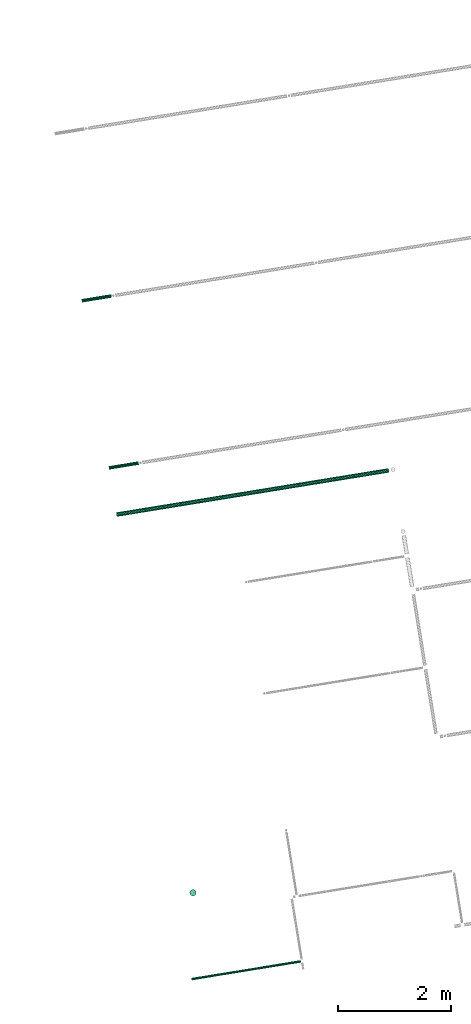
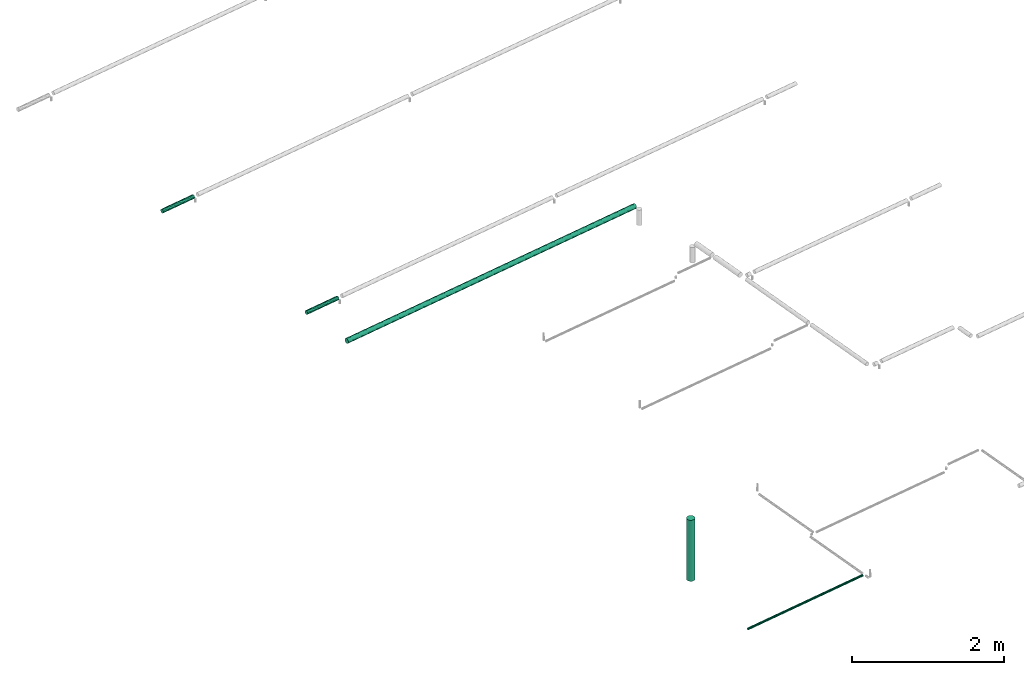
# One storey, part 9 of 10: 5 flow segments.
"""IFC2X3 building model written with IfcOpenShell, lengths in millimetres."""

from ifc_helpers import new_model, entity, si_unit, converted_unit, derived_unit, direction, frame, origin, origin_with_axes, place, context, subcontext, project, spatial, faceted_brep, type_object, element, save


model = new_model("IFC2X3")

# Units and contexts
plan_context = context("Plan", 3, precision=1e-05, world=origin_with_axes())
model_context = context("Model", 3, precision=0.01, world=origin(), true_north=direction((6.12323399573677e-17, 1.0)))
body_context = subcontext(model_context, "Body", "Model", "MODEL_VIEW")
ifc_project = project(units=[converted_unit("PLANEANGLEUNIT", "DEGREE", entity("IfcPositiveLengthMeasure", 0.0174532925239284), si_unit("PLANEANGLEUNIT", "RADIAN"), dimensions=[0, 0, 0, 0, 0, 0, 0]), si_unit("AREAUNIT", "SQUARE_METRE"), si_unit("LENGTHUNIT", "METRE", prefix="MILLI"), si_unit("MASSUNIT", "GRAM", prefix="KILO"), si_unit("POWERUNIT", "WATT"), si_unit("PRESSUREUNIT", "PASCAL", prefix="KILO"), si_unit("FORCEUNIT", "NEWTON", prefix="KILO"), si_unit("ELECTRICVOLTAGEUNIT", "VOLT"), si_unit("ELECTRICCURRENTUNIT", "AMPERE"), si_unit("THERMODYNAMICTEMPERATUREUNIT", "DEGREE_CELSIUS"), si_unit("TIMEUNIT", "SECOND"), si_unit("VOLUMEUNIT", "CUBIC_METRE"), derived_unit("LINEARVELOCITYUNIT", [(si_unit("LENGTHUNIT", "METRE"), 1), (si_unit("TIMEUNIT", "SECOND"), -1)]), derived_unit("VOLUMETRICFLOWRATEUNIT", [(si_unit("VOLUMEUNIT", "CUBIC_METRE"), 1), (si_unit("TIMEUNIT", "SECOND"), -1)]), derived_unit("THERMALTRANSMITTANCEUNIT", [(si_unit("POWERUNIT", "WATT"), 1), (si_unit("THERMODYNAMICTEMPERATUREUNIT", "KELVIN"), -1), (si_unit("AREAUNIT", "SQUARE_METRE"), -1)]), derived_unit("SOUNDPRESSUREUNIT", [(si_unit("PRESSUREUNIT", "PASCAL"), 1)])], contexts=[model_context, plan_context])

# Site, building, storey
site_placement = place(None, frame((-0.00071070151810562, 0.00438415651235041, 0.0), z_axis=(0.0, 0.0, 1.0), x_axis=(-0.160236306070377, 0.987078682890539, 0.0)))
site = spatial("IfcSite", under=ifc_project, at=site_placement, Name="Default", CompositionType="ELEMENT")
building_placement = place(site_placement, origin_with_axes())
building = spatial("IfcBuilding", under=site, at=building_placement, CompositionType="ELEMENT")
storey_placement = place(building_placement, frame((0.0, 0.0, 55630.0), z_axis=(0.0, 0.0, 1.0), x_axis=(1.0, 0.0, 0.0)))
storey = spatial("IfcBuildingStorey", under=building, at=storey_placement, Name="Nivå E", CompositionType="ELEMENT", Elevation=55630.0)

# Flow segments
pipe_segment_type = type_object("IfcPipeSegmentType", Name="Pipe Types:Stålrør normaltykke", PredefinedType="NOTDEFINED")
flow_segment_1_placement = place(storey_placement, origin_with_axes())
element("IfcFlowSegment", 1, at=flow_segment_1_placement, inside=storey, type_object=pipe_segment_type, Name="Pipe Types:Stålrør normaltykke", ObjectType="Pipe Types:Stålrør normaltykke", context=body_context, shape_type="Brep", body=[
    faceted_brep([(772407.31159749, -500902.480498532, 2605.23549249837), (772407.769643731, -500902.480498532, 2600.0), (772407.769643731, -501434.677242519, 2600.0), (772407.31159749, -501434.677242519, 2605.23549249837), (772407.31159749, -500902.480498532, 2594.76450750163), (772407.31159749, -501434.677242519, 2594.76450750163), (772405.951376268, -500902.480498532, 2589.68809279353), (772405.951376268, -501434.677242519, 2589.68809279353), (772403.7303097, -500902.480498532, 2584.92500016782), (772403.7303097, -501434.677242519, 2584.92500016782), (772400.71588377, -500902.480498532, 2580.6199537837), (772400.71588377, -501434.677242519, 2580.6199537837), (772396.999690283, -500902.480498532, 2576.90376029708), (772396.999690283, -501434.677242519, 2576.90376029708), (772392.694643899, -500902.480498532, 2573.88933436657), (772392.694643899, -501434.677242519, 2573.88933436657), (772387.931551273, -500902.480498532, 2571.66826779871), (772387.931551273, -501434.677242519, 2571.66826779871), (772382.855136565, -500902.480498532, 2570.30804657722), (772382.855136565, -501434.677242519, 2570.30804657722), (772377.619644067, -500902.480498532, 2569.85000033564), (772377.619644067, -501434.677242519, 2569.85000033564), (772372.384151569, -500902.480498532, 2570.30804657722), (772372.384151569, -501434.677242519, 2570.30804657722), (772367.30773686, -500902.480498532, 2571.66826779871), (772367.30773686, -501434.677242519, 2571.66826779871), (772362.544644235, -500902.480498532, 2573.88933436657), (772362.544644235, -501434.677242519, 2573.88933436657), (772358.239597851, -500902.480498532, 2576.90376029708), (772358.239597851, -501434.677242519, 2576.90376029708), (772354.523404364, -500902.480498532, 2580.6199537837), (772354.523404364, -501434.677242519, 2580.6199537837), (772351.508978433, -500902.480498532, 2584.92500016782), (772351.508978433, -501434.677242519, 2584.92500016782), (772349.287911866, -500902.480498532, 2589.68809279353), (772349.287911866, -501434.677242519, 2589.68809279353), (772347.927690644, -500902.480498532, 2594.76450750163), (772347.927690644, -501434.677242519, 2594.76450750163), (772347.469644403, -500902.480498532, 2600.0), (772347.469644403, -501434.677242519, 2600.0), (772347.927690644, -500902.480498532, 2605.23549249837), (772347.927690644, -501434.677242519, 2605.23549249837), (772349.287911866, -500902.480498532, 2610.31190720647), (772349.287911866, -501434.677242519, 2610.31190720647), (772351.508978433, -500902.480498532, 2615.07499983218), (772351.508978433, -501434.677242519, 2615.07499983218), (772354.523404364, -500902.480498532, 2619.3800462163), (772354.523404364, -501434.677242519, 2619.3800462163), (772358.239597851, -500902.480498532, 2623.09623970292), (772358.239597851, -501434.677242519, 2623.09623970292), (772362.544644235, -500902.480498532, 2626.11066563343), (772362.544644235, -501434.677242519, 2626.11066563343), (772367.30773686, -500902.480498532, 2628.33173220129), (772367.30773686, -501434.677242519, 2628.33173220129), (772372.384151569, -500902.480498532, 2629.69195342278), (772372.384151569, -501434.677242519, 2629.69195342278), (772377.619644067, -500902.480498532, 2630.14999966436), (772377.619644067, -501434.677242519, 2630.14999966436), (772382.855136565, -500902.480498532, 2629.69195342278), (772382.855136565, -501434.677242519, 2629.69195342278), (772387.931551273, -500902.480498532, 2628.33173220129), (772387.931551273, -501434.677242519, 2628.33173220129), (772392.694643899, -500902.480498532, 2626.11066563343), (772392.694643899, -501434.677242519, 2626.11066563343), (772396.999690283, -500902.480498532, 2623.09623970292), (772396.999690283, -501434.677242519, 2623.09623970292), (772400.71588377, -500902.480498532, 2619.3800462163), (772400.71588377, -501434.677242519, 2619.3800462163), (772403.7303097, -500902.480498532, 2615.07499983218), (772403.7303097, -501434.677242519, 2615.07499983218), (772405.951376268, -500902.480498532, 2610.31190720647), (772405.951376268, -501434.677242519, 2610.31190720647)], [[[0, 1, 2, 3]], [[1, 4, 5, 2]], [[4, 6, 7, 5]], [[6, 8, 9, 7]], [[8, 10, 11, 9]], [[10, 12, 13, 11]], [[12, 14, 15, 13]], [[14, 16, 17, 15]], [[16, 18, 19, 17]], [[18, 20, 21, 19]], [[20, 22, 23, 21]], [[22, 24, 25, 23]], [[24, 26, 27, 25]], [[26, 28, 29, 27]], [[28, 30, 31, 29]], [[30, 32, 33, 31]], [[32, 34, 35, 33]], [[34, 36, 37, 35]], [[36, 38, 39, 37]], [[38, 40, 41, 39]], [[40, 42, 43, 41]], [[42, 44, 45, 43]], [[44, 46, 47, 45]], [[46, 48, 49, 47]], [[48, 50, 51, 49]], [[50, 52, 53, 51]], [[52, 54, 55, 53]], [[54, 56, 57, 55]], [[56, 58, 59, 57]], [[58, 60, 61, 59]], [[60, 62, 63, 61]], [[62, 64, 65, 63]], [[64, 66, 67, 65]], [[66, 68, 69, 67]], [[68, 70, 71, 69]], [[70, 0, 3, 71]], [[3, 2, 5, 7, 9, 11, 13, 15, 17, 19, 21, 23, 25, 27, 29, 31, 33, 35, 37, 39, 41, 43, 45, 47, 49, 51, 53, 55, 57, 59, 61, 63, 65, 67, 69, 71]], [[70, 68, 66, 64, 62, 60, 58, 56, 54, 52, 50, 48, 46, 44, 42, 40, 38, 36, 34, 32, 30, 28, 26, 24, 22, 20, 18, 16, 14, 12, 10, 8, 6, 4, 1, 0]]], orient=[[False], [False], [False], [False], [False], [False], [False], [False], [False], [False], [False], [False], [False], [False], [False], [False], [False], [False], [False], [False], [False], [False], [False], [False], [False], [False], [False], [False], [False], [False], [False], [False], [False], [False], [False], [False], [False], [False]]),
])
flow_segment_2_placement = place(storey_placement, origin_with_axes())
element("IfcFlowSegment", 2, at=flow_segment_2_placement, inside=storey, type_object=pipe_segment_type, Name="Pipe Types:Stålrør normaltykke", ObjectType="Pipe Types:Stålrør normaltykke", context=body_context, shape_type="Brep", body=[
    faceted_brep([(775407.31159749, -500902.480498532, 2605.23549249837), (775407.769643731, -500902.480498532, 2600.0), (775407.769643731, -501434.677242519, 2600.0), (775407.31159749, -501434.677242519, 2605.23549249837), (775407.31159749, -500902.480498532, 2594.76450750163), (775407.31159749, -501434.677242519, 2594.76450750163), (775405.951376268, -500902.480498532, 2589.68809279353), (775405.951376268, -501434.677242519, 2589.68809279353), (775403.7303097, -500902.480498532, 2584.92500016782), (775403.7303097, -501434.677242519, 2584.92500016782), (775400.71588377, -500902.480498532, 2580.6199537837), (775400.71588377, -501434.677242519, 2580.6199537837), (775396.999690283, -500902.480498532, 2576.90376029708), (775396.999690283, -501434.677242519, 2576.90376029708), (775392.694643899, -500902.480498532, 2573.88933436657), (775392.694643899, -501434.677242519, 2573.88933436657), (775387.931551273, -500902.480498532, 2571.66826779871), (775387.931551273, -501434.677242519, 2571.66826779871), (775382.855136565, -500902.480498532, 2570.30804657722), (775382.855136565, -501434.677242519, 2570.30804657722), (775377.619644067, -500902.480498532, 2569.85000033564), (775377.619644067, -501434.677242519, 2569.85000033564), (775372.384151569, -500902.480498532, 2570.30804657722), (775372.384151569, -501434.677242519, 2570.30804657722), (775367.30773686, -500902.480498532, 2571.66826779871), (775367.30773686, -501434.677242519, 2571.66826779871), (775362.544644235, -500902.480498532, 2573.88933436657), (775362.544644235, -501434.677242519, 2573.88933436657), (775358.239597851, -500902.480498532, 2576.90376029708), (775358.239597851, -501434.677242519, 2576.90376029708), (775354.523404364, -500902.480498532, 2580.6199537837), (775354.523404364, -501434.677242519, 2580.6199537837), (775351.508978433, -500902.480498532, 2584.92500016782), (775351.508978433, -501434.677242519, 2584.92500016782), (775349.287911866, -500902.480498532, 2589.68809279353), (775349.287911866, -501434.677242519, 2589.68809279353), (775347.927690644, -500902.480498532, 2594.76450750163), (775347.927690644, -501434.677242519, 2594.76450750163), (775347.469644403, -500902.480498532, 2600.0), (775347.469644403, -501434.677242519, 2600.0), (775347.927690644, -500902.480498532, 2605.23549249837), (775347.927690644, -501434.677242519, 2605.23549249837), (775349.287911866, -500902.480498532, 2610.31190720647), (775349.287911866, -501434.677242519, 2610.31190720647), (775351.508978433, -500902.480498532, 2615.07499983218), (775351.508978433, -501434.677242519, 2615.07499983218), (775354.523404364, -500902.480498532, 2619.3800462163), (775354.523404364, -501434.677242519, 2619.3800462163), (775358.239597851, -500902.480498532, 2623.09623970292), (775358.239597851, -501434.677242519, 2623.09623970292), (775362.544644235, -500902.480498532, 2626.11066563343), (775362.544644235, -501434.677242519, 2626.11066563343), (775367.30773686, -500902.480498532, 2628.33173220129), (775367.30773686, -501434.677242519, 2628.33173220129), (775372.384151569, -500902.480498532, 2629.69195342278), (775372.384151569, -501434.677242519, 2629.69195342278), (775377.619644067, -500902.480498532, 2630.14999966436), (775377.619644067, -501434.677242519, 2630.14999966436), (775382.855136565, -500902.480498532, 2629.69195342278), (775382.855136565, -501434.677242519, 2629.69195342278), (775387.931551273, -500902.480498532, 2628.33173220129), (775387.931551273, -501434.677242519, 2628.33173220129), (775392.694643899, -500902.480498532, 2626.11066563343), (775392.694643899, -501434.677242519, 2626.11066563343), (775396.999690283, -500902.480498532, 2623.09623970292), (775396.999690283, -501434.677242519, 2623.09623970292), (775400.71588377, -500902.480498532, 2619.3800462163), (775400.71588377, -501434.677242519, 2619.3800462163), (775403.7303097, -500902.480498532, 2615.07499983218), (775403.7303097, -501434.677242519, 2615.07499983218), (775405.951376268, -500902.480498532, 2610.31190720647), (775405.951376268, -501434.677242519, 2610.31190720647)], [[[0, 1, 2, 3]], [[1, 4, 5, 2]], [[4, 6, 7, 5]], [[6, 8, 9, 7]], [[8, 10, 11, 9]], [[10, 12, 13, 11]], [[12, 14, 15, 13]], [[14, 16, 17, 15]], [[16, 18, 19, 17]], [[18, 20, 21, 19]], [[20, 22, 23, 21]], [[22, 24, 25, 23]], [[24, 26, 27, 25]], [[26, 28, 29, 27]], [[28, 30, 31, 29]], [[30, 32, 33, 31]], [[32, 34, 35, 33]], [[34, 36, 37, 35]], [[36, 38, 39, 37]], [[38, 40, 41, 39]], [[40, 42, 43, 41]], [[42, 44, 45, 43]], [[44, 46, 47, 45]], [[46, 48, 49, 47]], [[48, 50, 51, 49]], [[50, 52, 53, 51]], [[52, 54, 55, 53]], [[54, 56, 57, 55]], [[56, 58, 59, 57]], [[58, 60, 61, 59]], [[60, 62, 63, 61]], [[62, 64, 65, 63]], [[64, 66, 67, 65]], [[66, 68, 69, 67]], [[68, 70, 71, 69]], [[70, 0, 3, 71]], [[3, 2, 5, 7, 9, 11, 13, 15, 17, 19, 21, 23, 25, 27, 29, 31, 33, 35, 37, 39, 41, 43, 45, 47, 49, 51, 53, 55, 57, 59, 61, 63, 65, 67, 69, 71]], [[70, 68, 66, 64, 62, 60, 58, 56, 54, 52, 50, 48, 46, 44, 42, 40, 38, 36, 34, 32, 30, 28, 26, 24, 22, 20, 18, 16, 14, 12, 10, 8, 6, 4, 1, 0]]], orient=[[False], [False], [False], [False], [False], [False], [False], [False], [False], [False], [False], [False], [False], [False], [False], [False], [False], [False], [False], [False], [False], [False], [False], [False], [False], [False], [False], [False], [False], [False], [False], [False], [False], [False], [False], [False], [False], [False]]),
])
flow_segment_3_placement = place(storey_placement, origin_with_axes())
element("IfcFlowSegment", 3, at=flow_segment_3_placement, inside=storey, type_object=pipe_segment_type, Name="Pipe Types:Stålrør normaltykke", ObjectType="Pipe Types:Stålrør normaltykke", context=body_context, shape_type="Brep", body=[
    faceted_brep([(771576.670153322, -500902.480498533, 2606.60731303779), (771577.248218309, -500902.480498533, 2600.0), (771577.248218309, -505792.171366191, 2600.0), (771576.670153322, -505792.171366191, 2606.60731303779), (771576.670153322, -500902.480498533, 2593.39268696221), (771576.670153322, -505792.171366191, 2593.39268696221), (771574.953522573, -500902.480498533, 2586.98613378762), (771574.953522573, -505792.171366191, 2586.98613378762), (771572.150485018, -500902.480498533, 2580.97500035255), (771572.150485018, -505792.171366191, 2580.97500035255), (771568.346209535, -500902.480498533, 2575.54193190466), (771568.346209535, -505792.171366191, 2575.54193190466), (771563.65628711, -500902.480498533, 2570.85200947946), (771563.65628711, -505792.171366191, 2570.85200947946), (771558.223218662, -500902.480498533, 2567.04773399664), (771558.223218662, -505792.171366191, 2567.04773399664), (771552.212085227, -500902.480498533, 2564.24469644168), (771552.212085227, -505792.171366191, 2564.24469644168), (771545.805532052, -500902.480498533, 2562.52806569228), (771545.805532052, -505792.171366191, 2562.52806569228), (771539.198219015, -500902.480498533, 2561.9500007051), (771539.198219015, -505792.171366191, 2561.9500007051), (771532.590905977, -500902.480498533, 2562.52806569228), (771532.590905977, -505792.171366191, 2562.52806569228), (771526.184352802, -500902.480498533, 2564.24469644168), (771526.184352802, -505792.171366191, 2564.24469644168), (771520.173219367, -500902.480498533, 2567.04773399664), (771520.173219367, -505792.171366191, 2567.04773399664), (771514.740150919, -500902.480498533, 2570.85200947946), (771514.740150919, -505792.171366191, 2570.85200947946), (771510.050228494, -500902.480498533, 2575.54193190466), (771510.050228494, -505792.171366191, 2575.54193190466), (771506.245953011, -500902.480498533, 2580.97500035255), (771506.245953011, -505792.171366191, 2580.97500035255), (771503.442915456, -500902.480498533, 2586.98613378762), (771503.442915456, -505792.171366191, 2586.98613378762), (771501.726284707, -500902.480498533, 2593.39268696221), (771501.726284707, -505792.171366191, 2593.39268696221), (771501.14821972, -500902.480498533, 2600.0), (771501.14821972, -505792.171366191, 2600.0), (771501.726284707, -500902.480498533, 2606.60731303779), (771501.726284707, -505792.171366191, 2606.60731303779), (771503.442915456, -500902.480498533, 2613.01386621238), (771503.442915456, -505792.171366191, 2613.01386621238), (771506.245953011, -500902.480498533, 2619.02499964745), (771506.245953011, -505792.171366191, 2619.02499964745), (771510.050228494, -500902.480498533, 2624.45806809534), (771510.050228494, -505792.171366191, 2624.45806809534), (771514.740150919, -500902.480498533, 2629.14799052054), (771514.740150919, -505792.171366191, 2629.14799052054), (771520.173219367, -500902.480498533, 2632.95226600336), (771520.173219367, -505792.171366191, 2632.95226600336), (771526.184352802, -500902.480498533, 2635.75530355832), (771526.184352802, -505792.171366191, 2635.75530355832), (771532.590905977, -500902.480498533, 2637.47193430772), (771532.590905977, -505792.171366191, 2637.47193430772), (771539.198219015, -500902.480498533, 2638.0499992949), (771539.198219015, -505792.171366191, 2638.0499992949), (771545.805532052, -500902.480498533, 2637.47193430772), (771545.805532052, -505792.171366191, 2637.47193430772), (771552.212085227, -500902.480498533, 2635.75530355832), (771552.212085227, -505792.171366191, 2635.75530355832), (771558.223218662, -500902.480498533, 2632.95226600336), (771558.223218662, -505792.171366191, 2632.95226600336), (771563.65628711, -500902.480498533, 2629.14799052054), (771563.65628711, -505792.171366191, 2629.14799052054), (771568.346209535, -500902.480498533, 2624.45806809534), (771568.346209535, -505792.171366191, 2624.45806809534), (771572.150485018, -500902.480498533, 2619.02499964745), (771572.150485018, -505792.171366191, 2619.02499964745), (771574.953522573, -500902.480498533, 2613.01386621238), (771574.953522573, -505792.171366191, 2613.01386621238)], [[[0, 1, 2, 3]], [[1, 4, 5, 2]], [[4, 6, 7, 5]], [[6, 8, 9, 7]], [[8, 10, 11, 9]], [[10, 12, 13, 11]], [[12, 14, 15, 13]], [[14, 16, 17, 15]], [[16, 18, 19, 17]], [[18, 20, 21, 19]], [[20, 22, 23, 21]], [[22, 24, 25, 23]], [[24, 26, 27, 25]], [[26, 28, 29, 27]], [[28, 30, 31, 29]], [[30, 32, 33, 31]], [[32, 34, 35, 33]], [[34, 36, 37, 35]], [[36, 38, 39, 37]], [[38, 40, 41, 39]], [[40, 42, 43, 41]], [[42, 44, 45, 43]], [[44, 46, 47, 45]], [[46, 48, 49, 47]], [[48, 50, 51, 49]], [[50, 52, 53, 51]], [[52, 54, 55, 53]], [[54, 56, 57, 55]], [[56, 58, 59, 57]], [[58, 60, 61, 59]], [[60, 62, 63, 61]], [[62, 64, 65, 63]], [[64, 66, 67, 65]], [[66, 68, 69, 67]], [[68, 70, 71, 69]], [[70, 0, 3, 71]], [[3, 2, 5, 7, 9, 11, 13, 15, 17, 19, 21, 23, 25, 27, 29, 31, 33, 35, 37, 39, 41, 43, 45, 47, 49, 51, 53, 55, 57, 59, 61, 63, 65, 67, 69, 71]], [[70, 68, 66, 64, 62, 60, 58, 56, 54, 52, 50, 48, 46, 44, 42, 40, 38, 36, 34, 32, 30, 28, 26, 24, 22, 20, 18, 16, 14, 12, 10, 8, 6, 4, 1, 0]]], orient=[[False], [False], [False], [False], [False], [False], [False], [False], [False], [False], [False], [False], [False], [False], [False], [False], [False], [False], [False], [False], [False], [False], [False], [False], [False], [False], [False], [False], [False], [False], [False], [False], [False], [False], [False], [False], [False], [False]]),
])
flow_segment_4_placement = place(storey_placement, origin_with_axes())
element("IfcFlowSegment", 4, at=flow_segment_4_placement, inside=storey, type_object=pipe_segment_type, Name="Pipe Types:Stålrør normaltykke", ObjectType="Pipe Types:Stålrør normaltykke", context=body_context, shape_type="Brep", body=[
    faceted_brep([(764764.161607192, -501165.91880016, 2369.9999999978), (764763.293370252, -501175.842793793, 2369.9999999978), (764763.293370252, -501175.842793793, 3349.99999999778), (764764.161607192, -501165.91880016, 3349.99999999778), (764763.293370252, -501155.994806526, 2369.9999999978), (764763.293370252, -501155.994806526, 3349.99999999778), (764760.715040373, -501146.372348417, 2369.9999999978), (764760.715040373, -501146.372348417, 3349.99999999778), (764756.504958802, -501137.343799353, 2369.9999999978), (764756.504958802, -501137.343799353, 3349.99999999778), (764750.791046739, -501129.183487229, 2369.9999999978), (764750.791046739, -501129.183487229, 3349.99999999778), (764743.746918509, -501122.139359, 2369.9999999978), (764743.746918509, -501122.139359, 3349.99999999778), (764735.586606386, -501116.425446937, 2369.9999999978), (764735.586606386, -501116.425446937, 3349.99999999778), (764726.558057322, -501112.215365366, 2369.9999999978), (764726.558057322, -501112.215365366, 3349.99999999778), (764716.935599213, -501109.637035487, 2369.9999999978), (764716.935599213, -501109.637035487, 3349.99999999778), (764707.011605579, -501108.768798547, 2369.9999999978), (764707.011605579, -501108.768798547, 3349.99999999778), (764697.087611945, -501109.637035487, 2369.9999999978), (764697.087611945, -501109.637035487, 3349.99999999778), (764687.465153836, -501112.215365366, 2369.9999999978), (764687.465153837, -501112.215365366, 3349.99999999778), (764678.436604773, -501116.425446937, 2369.9999999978), (764678.436604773, -501116.425446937, 3349.99999999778), (764670.276292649, -501122.139359, 2369.9999999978), (764670.276292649, -501122.139359, 3349.99999999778), (764663.232164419, -501129.183487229, 2369.9999999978), (764663.232164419, -501129.183487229, 3349.99999999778), (764657.518252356, -501137.343799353, 2369.9999999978), (764657.518252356, -501137.343799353, 3349.99999999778), (764653.308170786, -501146.372348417, 2369.9999999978), (764653.308170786, -501146.372348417, 3349.99999999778), (764650.729840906, -501155.994806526, 2369.9999999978), (764650.729840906, -501155.994806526, 3349.99999999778), (764649.861603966, -501165.91880016, 2369.9999999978), (764649.861603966, -501165.91880016, 3349.99999999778), (764650.729840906, -501175.842793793, 2369.9999999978), (764650.729840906, -501175.842793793, 3349.99999999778), (764653.308170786, -501185.465251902, 2369.9999999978), (764653.308170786, -501185.465251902, 3349.99999999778), (764657.518252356, -501194.493800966, 2369.9999999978), (764657.518252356, -501194.493800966, 3349.99999999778), (764663.232164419, -501202.65411309, 2369.9999999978), (764663.232164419, -501202.65411309, 3349.99999999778), (764670.276292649, -501209.698241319, 2369.9999999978), (764670.276292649, -501209.698241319, 3349.99999999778), (764678.436604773, -501215.412153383, 2369.9999999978), (764678.436604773, -501215.412153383, 3349.99999999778), (764687.465153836, -501219.622234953, 2369.9999999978), (764687.465153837, -501219.622234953, 3349.99999999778), (764697.087611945, -501222.200564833, 2369.9999999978), (764697.087611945, -501222.200564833, 3349.99999999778), (764707.011605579, -501223.068801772, 2369.9999999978), (764707.011605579, -501223.068801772, 3349.99999999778), (764716.935599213, -501222.200564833, 2369.9999999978), (764716.935599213, -501222.200564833, 3349.99999999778), (764726.558057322, -501219.622234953, 2369.9999999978), (764726.558057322, -501219.622234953, 3349.99999999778), (764735.586606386, -501215.412153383, 2369.9999999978), (764735.586606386, -501215.412153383, 3349.99999999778), (764743.746918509, -501209.698241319, 2369.9999999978), (764743.746918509, -501209.698241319, 3349.99999999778), (764750.791046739, -501202.65411309, 2369.9999999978), (764750.791046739, -501202.65411309, 3349.99999999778), (764756.504958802, -501194.493800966, 2369.9999999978), (764756.504958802, -501194.493800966, 3349.99999999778), (764760.715040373, -501185.465251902, 2369.9999999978), (764760.715040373, -501185.465251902, 3349.99999999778)], [[[0, 1, 2, 3]], [[4, 0, 3, 5]], [[6, 4, 5, 7]], [[8, 6, 7, 9]], [[10, 8, 9, 11]], [[12, 10, 11, 13]], [[14, 12, 13, 15]], [[16, 14, 15, 17]], [[18, 16, 17, 19]], [[20, 18, 19, 21]], [[22, 20, 21, 23]], [[24, 22, 23, 25]], [[26, 24, 25, 27]], [[28, 26, 27, 29]], [[30, 28, 29, 31]], [[32, 30, 31, 33]], [[34, 32, 33, 35]], [[36, 34, 35, 37]], [[38, 36, 37, 39]], [[40, 38, 39, 41]], [[42, 40, 41, 43]], [[44, 42, 43, 45]], [[46, 44, 45, 47]], [[48, 46, 47, 49]], [[50, 48, 49, 51]], [[52, 50, 51, 53]], [[54, 52, 53, 55]], [[56, 54, 55, 57]], [[58, 56, 57, 59]], [[60, 58, 59, 61]], [[62, 60, 61, 63]], [[64, 62, 63, 65]], [[66, 64, 65, 67]], [[68, 66, 67, 69]], [[70, 68, 69, 71]], [[1, 70, 71, 2]], [[3, 2, 71, 69, 67, 65, 63, 61, 59, 57, 55, 53, 51, 49, 47, 45, 43, 41, 39, 37, 35, 33, 31, 29, 27, 25, 23, 21, 19, 17, 15, 13, 11, 9, 7, 5]], [[4, 6, 8, 10, 12, 14, 16, 18, 20, 22, 24, 26, 28, 30, 32, 34, 36, 38, 40, 42, 44, 46, 48, 50, 52, 54, 56, 58, 60, 62, 64, 66, 68, 70, 1, 0]]], orient=[[False], [False], [False], [False], [False], [False], [False], [False], [False], [False], [False], [False], [False], [False], [False], [False], [False], [False], [False], [False], [False], [False], [False], [False], [False], [False], [False], [False], [False], [False], [False], [False], [False], [False], [False], [False], [False], [False]]),
])
flow_segment_5_placement = place(storey_placement, origin_with_axes())
element("IfcFlowSegment", 5, at=flow_segment_5_placement, inside=storey, type_object=pipe_segment_type, Name="Pipe Types:Stålrør normaltykke", ObjectType="Pipe Types:Stålrør normaltykke", context=body_context, shape_type="Brep", body=[
    faceted_brep([(763217.262135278, -500902.480498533, 2502.92597186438), (763217.518124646, -500902.480498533, 2500.0), (763217.518124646, -502851.967550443, 2500.0), (763217.262135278, -502851.967550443, 2502.92597186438), (763217.262135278, -500902.480498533, 2497.07402813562), (763217.262135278, -502851.967550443, 2497.07402813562), (763216.501945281, -500902.480498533, 2494.23696044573), (763216.501945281, -502851.967550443, 2494.23696044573), (763215.260652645, -500902.480498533, 2491.57499979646), (763215.260652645, -502851.967550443, 2491.57499979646), (763213.575973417, -500902.480498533, 2489.16902851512), (763213.575973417, -502851.967550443, 2489.16902851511), (763211.499095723, -500902.480498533, 2487.0921508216), (763211.499095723, -502851.967550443, 2487.0921508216), (763209.093124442, -500902.480498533, 2485.40747159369), (763209.093124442, -502851.967550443, 2485.40747159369), (763206.431163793, -500902.480498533, 2484.16617895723), (763206.431163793, -502851.967550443, 2484.16617895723), (763203.594096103, -500902.480498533, 2483.40598896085), (763203.594096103, -502851.967550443, 2483.40598896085), (763200.668124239, -500902.480498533, 2483.14999959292), (763200.668124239, -502851.967550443, 2483.14999959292), (763197.742152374, -500902.480498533, 2483.40598896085), (763197.742152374, -502851.967550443, 2483.40598896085), (763194.905084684, -500902.480498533, 2484.16617895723), (763194.905084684, -502851.967550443, 2484.16617895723), (763192.243124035, -500902.480498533, 2485.40747159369), (763192.243124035, -502851.967550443, 2485.40747159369), (763189.837152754, -500902.480498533, 2487.0921508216), (763189.837152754, -502851.967550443, 2487.0921508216), (763187.76027506, -500902.480498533, 2489.16902851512), (763187.76027506, -502851.967550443, 2489.16902851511), (763186.075595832, -500902.480498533, 2491.57499979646), (763186.075595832, -502851.967550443, 2491.57499979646), (763184.834303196, -500902.480498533, 2494.23696044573), (763184.834303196, -502851.967550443, 2494.23696044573), (763184.074113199, -500902.480498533, 2497.07402813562), (763184.074113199, -502851.967550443, 2497.07402813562), (763183.818123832, -500902.480498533, 2500.0), (763183.818123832, -502851.967550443, 2500.0), (763184.074113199, -500902.480498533, 2502.92597186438), (763184.074113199, -502851.967550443, 2502.92597186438), (763184.834303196, -500902.480498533, 2505.76303955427), (763184.834303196, -502851.967550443, 2505.76303955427), (763186.075595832, -500902.480498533, 2508.42500020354), (763186.075595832, -502851.967550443, 2508.42500020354), (763187.76027506, -500902.480498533, 2510.83097148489), (763187.76027506, -502851.967550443, 2510.83097148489), (763189.837152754, -500902.480498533, 2512.9078491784), (763189.837152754, -502851.967550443, 2512.9078491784), (763192.243124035, -500902.480498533, 2514.59252840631), (763192.243124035, -502851.967550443, 2514.59252840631), (763194.905084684, -500902.480498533, 2515.83382104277), (763194.905084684, -502851.967550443, 2515.83382104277), (763197.742152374, -500902.480498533, 2516.59401103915), (763197.742152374, -502851.967550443, 2516.59401103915), (763200.668124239, -500902.480498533, 2516.85000040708), (763200.668124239, -502851.967550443, 2516.85000040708), (763203.594096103, -500902.480498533, 2516.59401103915), (763203.594096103, -502851.967550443, 2516.59401103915), (763206.431163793, -500902.480498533, 2515.83382104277), (763206.431163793, -502851.967550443, 2515.83382104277), (763209.093124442, -500902.480498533, 2514.59252840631), (763209.093124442, -502851.967550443, 2514.59252840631), (763211.499095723, -500902.480498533, 2512.9078491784), (763211.499095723, -502851.967550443, 2512.9078491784), (763213.575973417, -500902.480498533, 2510.83097148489), (763213.575973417, -502851.967550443, 2510.83097148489), (763215.260652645, -500902.480498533, 2508.42500020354), (763215.260652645, -502851.967550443, 2508.42500020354), (763216.501945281, -500902.480498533, 2505.76303955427), (763216.501945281, -502851.967550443, 2505.76303955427)], [[[0, 1, 2, 3]], [[1, 4, 5, 2]], [[4, 6, 7, 5]], [[6, 8, 9, 7]], [[8, 10, 11, 9]], [[10, 12, 13, 11]], [[12, 14, 15, 13]], [[14, 16, 17, 15]], [[16, 18, 19, 17]], [[18, 20, 21, 19]], [[20, 22, 23, 21]], [[22, 24, 25, 23]], [[24, 26, 27, 25]], [[26, 28, 29, 27]], [[28, 30, 31, 29]], [[30, 32, 33, 31]], [[32, 34, 35, 33]], [[34, 36, 37, 35]], [[36, 38, 39, 37]], [[38, 40, 41, 39]], [[40, 42, 43, 41]], [[42, 44, 45, 43]], [[44, 46, 47, 45]], [[46, 48, 49, 47]], [[48, 50, 51, 49]], [[50, 52, 53, 51]], [[52, 54, 55, 53]], [[54, 56, 57, 55]], [[56, 58, 59, 57]], [[58, 60, 61, 59]], [[60, 62, 63, 61]], [[62, 64, 65, 63]], [[64, 66, 67, 65]], [[66, 68, 69, 67]], [[68, 70, 71, 69]], [[70, 0, 3, 71]], [[3, 2, 5, 7, 9, 11, 13, 15, 17, 19, 21, 23, 25, 27, 29, 31, 33, 35, 37, 39, 41, 43, 45, 47, 49, 51, 53, 55, 57, 59, 61, 63, 65, 67, 69, 71]], [[70, 68, 66, 64, 62, 60, 58, 56, 54, 52, 50, 48, 46, 44, 42, 40, 38, 36, 34, 32, 30, 28, 26, 24, 22, 20, 18, 16, 14, 12, 10, 8, 6, 4, 1, 0]]], orient=[[False], [False], [False], [False], [False], [False], [False], [False], [False], [False], [False], [False], [False], [False], [False], [False], [False], [False], [False], [False], [False], [False], [False], [False], [False], [False], [False], [False], [False], [False], [False], [False], [False], [False], [False], [False], [False], [False]]),
])

save(model, "model.ifc")
